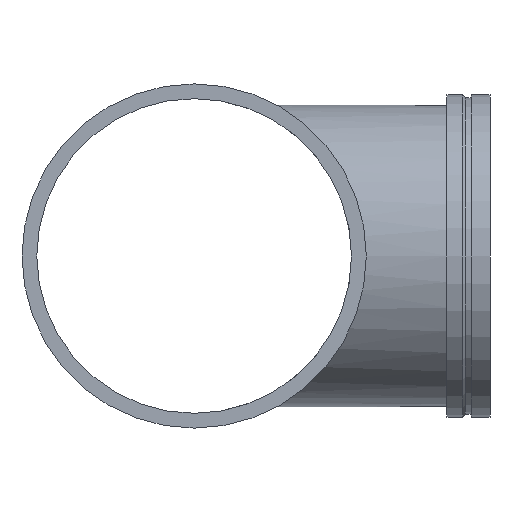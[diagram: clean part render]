
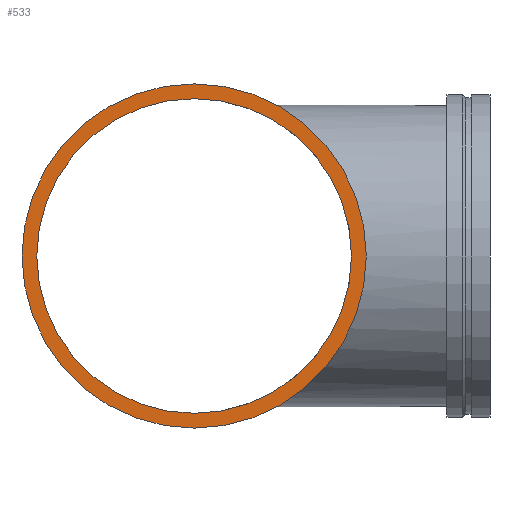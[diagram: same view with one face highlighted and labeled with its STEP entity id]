
A CAD part, left-side view. The second image highlights one B-rep face of the part: STEP entity #533.
In plain terms, the highlighted planar face has unit normal (-1, 0, 0).
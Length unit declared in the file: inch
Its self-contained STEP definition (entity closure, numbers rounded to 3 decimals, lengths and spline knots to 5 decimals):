
#58=FACE_BOUND('',#128,.T.);
#67=PLANE('',#626);
#92=FACE_OUTER_BOUND('',#127,.T.);
#127=EDGE_LOOP('',(#465,#466));
#128=EDGE_LOOP('',(#467,#468));
#151=CIRCLE('',#587,16.);
#152=CIRCLE('',#588,16.);
#175=CIRCLE('',#624,14.625);
#176=CIRCLE('',#625,14.625);
#239=VERTEX_POINT('',#1169);
#240=VERTEX_POINT('',#1171);
#263=VERTEX_POINT('',#1238);
#264=VERTEX_POINT('',#1240);
#299=EDGE_CURVE('',#239,#240,#151,.T.);
#300=EDGE_CURVE('',#240,#239,#152,.T.);
#331=EDGE_CURVE('',#264,#263,#175,.T.);
#332=EDGE_CURVE('',#263,#264,#176,.T.);
#465=ORIENTED_EDGE('',*,*,#300,.F.);
#466=ORIENTED_EDGE('',*,*,#299,.F.);
#467=ORIENTED_EDGE('',*,*,#331,.T.);
#468=ORIENTED_EDGE('',*,*,#332,.T.);
#533=ADVANCED_FACE('',(#92,#58),#67,.T.);
#587=AXIS2_PLACEMENT_3D('',#1172,#716,#717);
#588=AXIS2_PLACEMENT_3D('',#1173,#718,#719);
#624=AXIS2_PLACEMENT_3D('',#1241,#798,#799);
#625=AXIS2_PLACEMENT_3D('',#1242,#800,#801);
#626=AXIS2_PLACEMENT_3D('',#1243,#802,#803);
#716=DIRECTION('center_axis',(1.,0.,0.));
#717=DIRECTION('ref_axis',(0.,0.,1.));
#718=DIRECTION('center_axis',(1.,0.,0.));
#719=DIRECTION('ref_axis',(0.,0.,1.));
#798=DIRECTION('center_axis',(1.,0.,0.));
#799=DIRECTION('ref_axis',(0.,0.,1.));
#800=DIRECTION('center_axis',(1.,0.,0.));
#801=DIRECTION('ref_axis',(0.,0.,1.));
#802=DIRECTION('center_axis',(-1.,0.,0.));
#803=DIRECTION('ref_axis',(0.,0.,-1.));
#1169=CARTESIAN_POINT('',(-28.,16.,0.));
#1171=CARTESIAN_POINT('',(-28.,-16.,0.));
#1172=CARTESIAN_POINT('Origin',(-28.,0.,0.));
#1173=CARTESIAN_POINT('Origin',(-28.,0.,0.));
#1238=CARTESIAN_POINT('',(-28.,14.625,0.));
#1240=CARTESIAN_POINT('',(-28.,-14.625,0.));
#1241=CARTESIAN_POINT('Origin',(-28.,0.,0.));
#1242=CARTESIAN_POINT('Origin',(-28.,0.,0.));
#1243=CARTESIAN_POINT('Origin',(-28.,-16.,0.));
